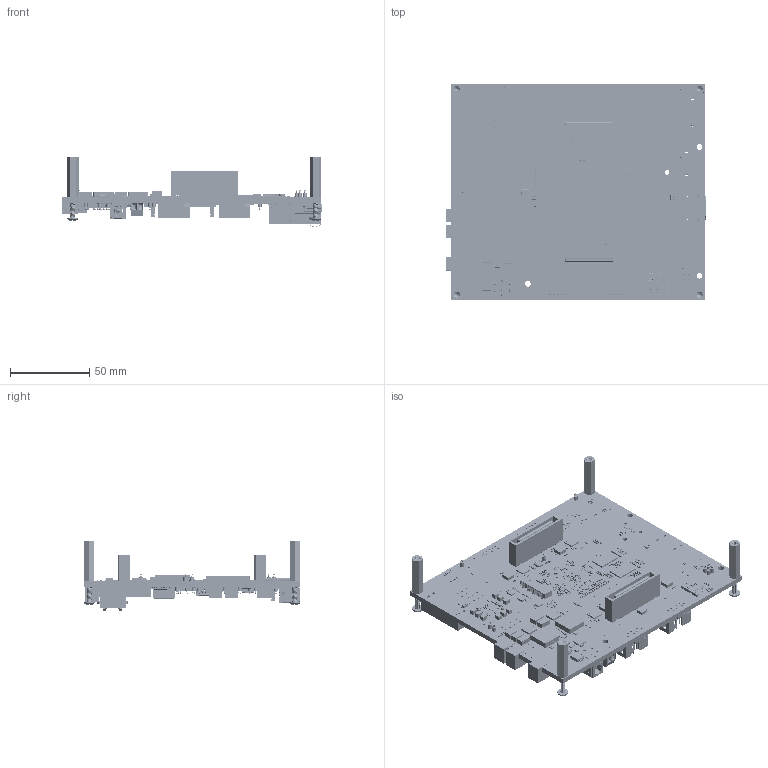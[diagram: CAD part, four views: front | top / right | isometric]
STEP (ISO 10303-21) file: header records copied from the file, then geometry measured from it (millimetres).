
FILE_DESCRIPTION(('Open CASCADE Model'),'2;1');
FILE_NAME('Open CASCADE Shape Model','2019-07-10T17:20:38',('Author'),( 'Open CASCADE'),'Open CASCADE STEP processor 6.8','Open CASCADE 6.8' ,'Unknown');
FILE_SCHEMA(('AUTOMOTIVE_DESIGN { 1 0 10303 214 1 1 1 1 }'));
Length unit declared in the file: millimetre
Products named in the file (1783): PCB; Board; R455; 6216454720; Extruded; 6216454528; U69; DCK0005A; DCK0005A_2; DCK0005A_1; DCK0005A_3; DCK0005A_4; DCK0005A_5; DCK0005A_6; DCK0005A_7; U68; DCU0008A; R560; 6216455680; 6216455488; R559; R558; R557; R556; C461; R555; R554; U67; DGV0016A; R553; R552; R551; C460; R550; R549; R548; R547; R546; R545; R544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
Assembly tree (5901 placements, depth 6):
  PCB
    Board
    R455
      6216454720  x2
        Extruded
      6216454528
        Extruded
    U69
      DCK0005A
        DCK0005A_2
        DCK0005A_1
          DCK0005A_3
          DCK0005A_4
          DCK0005A_5
          DCK0005A_6
          DCK0005A_7
    U68
      DCU0008A
    R560
      6216455680  x2
        Extruded
      6216455488
        Extruded
    R559
      6216454720  x2
        Extruded
      6216454528
        Extruded
    R558
      6216454720  x2
        Extruded
      6216454528
        Extruded
    R557
      6216455680  x2
        Extruded
      6216455488
        Extruded
    R556
      6216455680  x2
        Extruded
      6216455488
        Extruded
    C461
      6216455680  x2
        Extruded
      6216455488
        Extruded
    R555
      6216455680  x2
        Extruded
      6216455488
        Extruded
    R554
      6216454720  x2
        Extruded
      6216454528
        Extruded
    U67
      DGV0016A
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Bounding box: 164.5 x 136.6 x 44.04 mm (x, y, z)
Volume: 106453.5 mm3; surface area: 117352 mm2
Topology: 5208 solids, 5889 shells, 49201 faces, 118887 edges, 79613 vertices
Faces by surface type: plane 42164, cylinder 5818, sphere 882, bspline 210, cone 89, torus 22, revolution 16
Full cylindrical faces by diameter (mm): 0.21 x1, 0.41 x5, 0.5 x1, 0.635 x2, 0.7 x9, 0.8 x2, 0.812 x4, 0.889 x20, 0.9 x2, 1 x14, 1.016 x93, 1.02 x2, 1.1 x3, 1.2 x8, 1.3 x6, 1.45 x2, 1.5 x1, 1.587 x2, 1.6 x1, 1.7 x1, 1.93 x2, 2.3 x2, 2.5 x45, 3 x1, 3.2 x2, 3.658 x7
Entity records: 640105 total; most frequent: CARTESIAN_POINT 111115, DIRECTION 95650, ORIENTED_EDGE 88856, EDGE_CURVE 45444, LINE 36062, VECTOR 36062, VERTEX_POINT 31204, AXIS2_PLACEMENT_3D 29786
